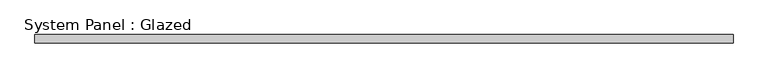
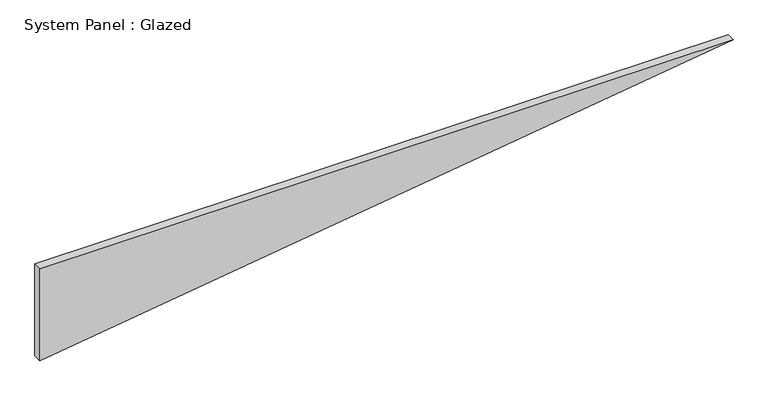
"""IFC4 building model written with IfcOpenShell, lengths in millimetres: plate geometry, System Panel : Glazed."""

from ifc_helpers import new_model, si_unit, frame, origin, place, context, project, spatial, polyline, outline, extrude, source, transform, mapped, element, save


def system_panel_glazed_3ad8292d(model_context):
    return source(origin(), model_context, "Body", "SweptSolid", [
        extrude(outline(polyline([(291.2063276, -1038.561125), (0.0, -1038.561125), (291.2063276, 1038.561125), (291.2063276, -1038.561125)])), frame((0.0, 19.05, 0.0), z_axis=(0.0, 1.0, 0.0), x_axis=(0.0, 0.0, 1.0)), (0.0, 0.0, 1.0), 25.4),
    ])


if __name__ == "__main__":
    model = new_model("IFC4")
    model_context = context("Model", 3, world=origin())
    ifc_project = project(units=[si_unit("LENGTHUNIT", "METRE", prefix="MILLI")], contexts=[model_context])
    site = spatial("IfcSite", under=ifc_project)
    building = spatial("IfcBuilding", under=site)
    placement = place(None, origin())
    system_panel_glazed_shape = system_panel_glazed_3ad8292d(model_context)
    element("IfcPlate", 1, ObjectType="System Panel : Glazed", at=placement, inside=building, context=model_context, shape_type="MappedRepresentation", body=[
        mapped(system_panel_glazed_shape, transform((0.0, 0.0, 0.0), x_axis=(1.0, 0.0, 0.0), y_axis=(0.0, 1.0, 0.0), z_axis=(0.0, 0.0, 1.0))),
    ])
    save(model, "model.ifc")
